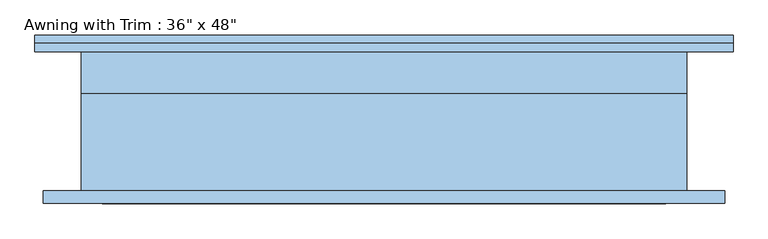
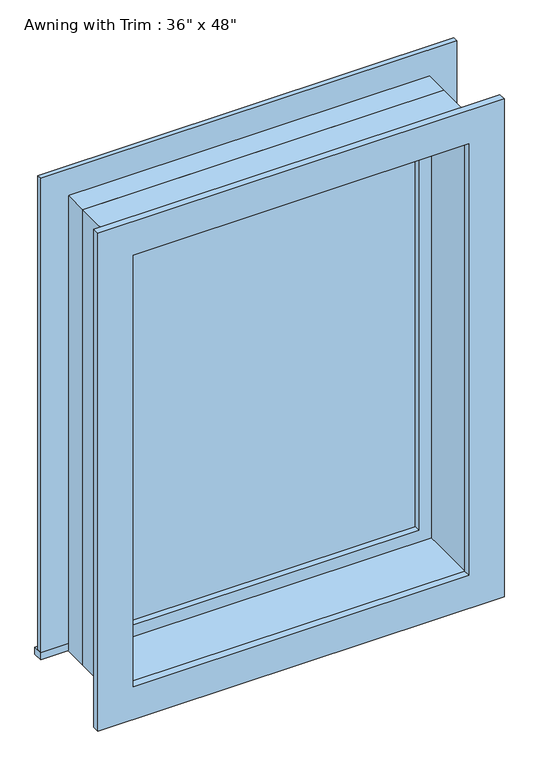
"""IFC4 building model written with IfcOpenShell, lengths in millimetres: window geometry."""

from ifc_helpers import new_model, si_unit, frame, origin, place, context, project, spatial, polyline, outline, extrude, source, transform, mapped, element, save


def window_4fdf5a1b(model_context):
    return source(origin(), model_context, "Body", "SweptSolid", [
        extrude(outline(polyline([(-527.05, 130.4), (527.05, 130.4), (527.05, 105.0), (-527.05, 105.0), (-527.05, 130.4)])), frame((0.0, 0.0, 914.4), z_axis=(0.0, 0.0, 1.0), x_axis=(1.0, 0.0, 0.0)), (0.0, 0.0, 1.0), 19.05),
        extrude(outline(polyline([(2114.55, -438.15), (2114.55, 438.15), (933.45, 438.15), (933.45, 527.05), (2203.45, 527.05), (2203.45, -527.05), (933.45, -527.05), (933.45, -438.15), (2114.55, -438.15)])), frame((0.0, 105.0, 0.0), z_axis=(0.0, 1.0, 0.0), x_axis=(0.0, 0.0, 1.0)), (0.0, 0.0, 1.0), 12.7),
        extrude(outline(polyline([(2190.75, 514.35), (2190.75, -514.35), (857.25, -514.35), (857.25, 514.35), (2190.75, 514.35)]), holes=[polyline([(2101.85, 425.45), (946.15, 425.45), (946.15, -425.45), (2101.85, -425.45), (2101.85, 425.45)])]), frame((0.0, -124.05, 0.0), z_axis=(0.0, 1.0, 0.0), x_axis=(0.0, 0.0, 1.0)), (0.0, 0.0, 1.0), 19.05),
        extrude(outline(polyline([(393.7, 57.375), (-393.7, 57.375), (-393.7, 70.075), (393.7, 70.075), (393.7, 57.375)])), frame((0.0, 0.0, 977.9), z_axis=(0.0, 0.0, 1.0), x_axis=(1.0, 0.0, 0.0)), (0.0, 0.0, 1.0), 1092.2),
        extrude(outline(polyline([(2114.55, -438.15), (933.45, -438.15), (933.45, 438.15), (2114.55, 438.15), (2114.55, -438.15)]), holes=[polyline([(2070.1, -393.7), (2070.1, 393.7), (977.9, 393.7), (977.9, -393.7), (2070.1, -393.7)])]), frame((0.0, 41.5, 0.0), z_axis=(0.0, 1.0, 0.0), x_axis=(0.0, 0.0, 1.0)), (0.0, 0.0, 1.0), 44.45),
        extrude(outline(polyline([(2133.6, -457.2), (914.4, -457.2), (914.4, 457.2), (2133.6, 457.2), (2133.6, -457.2)]), holes=[polyline([(2101.85, -425.45), (2101.85, 425.45), (946.15, 425.45), (946.15, -425.45), (2101.85, -425.45)])]), frame((0.0, -105.0, 0.0), z_axis=(0.0, 1.0, 0.0), x_axis=(0.0, 0.0, 1.0)), (0.0, 0.0, 1.0), 146.5),
        extrude(outline(polyline([(2133.6, 457.2), (2133.6, -457.2), (914.4, -457.2), (914.4, 457.2), (2133.6, 457.2)]), holes=[polyline([(2114.55, 438.15), (933.45, 438.15), (933.45, -438.15), (2114.55, -438.15), (2114.55, 438.15)])]), frame((0.0, 41.5, 0.0), z_axis=(0.0, 1.0, 0.0), x_axis=(0.0, 0.0, 1.0)), (0.0, 0.0, 1.0), 63.5),
    ])


if __name__ == "__main__":
    model = new_model("IFC4")
    model_context = context("Model", 3, world=origin())
    ifc_project = project(units=[si_unit("LENGTHUNIT", "METRE", prefix="MILLI")], contexts=[model_context])
    site = spatial("IfcSite", under=ifc_project)
    building = spatial("IfcBuilding", under=site)
    placement = place(None, origin())
    window_shape = window_4fdf5a1b(model_context)
    element("IfcWindow", 1, ObjectType="Awning with Trim : 36\" x 48\"", at=placement, inside=building, context=model_context, shape_type="MappedRepresentation", body=[
        mapped(window_shape, transform((0.0, 0.0, 0.0), x_axis=(1.0, 0.0, 0.0), y_axis=(0.0, 1.0, 0.0), z_axis=(0.0, 0.0, 1.0))),
    ])
    save(model, "model.ifc")
